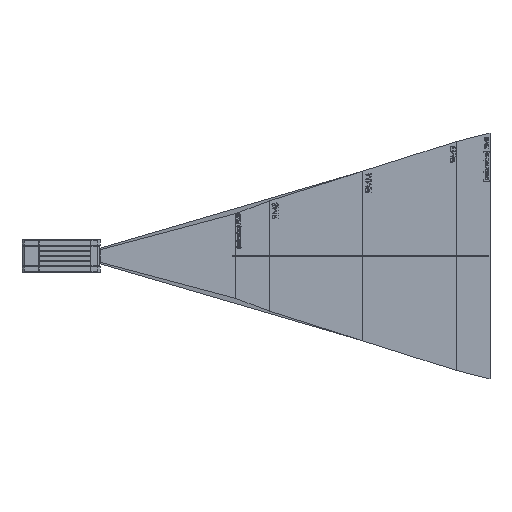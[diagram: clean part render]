
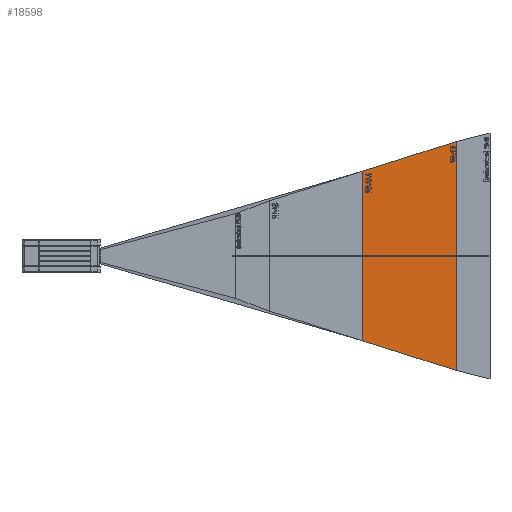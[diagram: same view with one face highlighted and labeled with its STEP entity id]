
A CAD part, left-side view. The second image highlights one B-rep face of the part: STEP entity #18598.
In plain terms, the highlighted planar face has unit normal (-1, 0, 0).
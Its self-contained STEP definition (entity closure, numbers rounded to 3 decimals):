
#6407 = CARTESIAN_POINT ( 'NONE',  ( -43.505, -321., -100. ) ) ;
#7502 = DIRECTION ( 'NONE',  ( -1., 0., 0. ) ) ;
#17875 = EDGE_CURVE ( 'NONE', #115089, #179967, #118974, .T. ) ;
#18047 = CARTESIAN_POINT ( 'NONE',  ( -43.505, -321., -100. ) ) ;
#18598 = ADVANCED_FACE ( 'NONE', ( #139598 ), #141641, .T. ) ;
#21507 = CARTESIAN_POINT ( 'NONE',  ( -43.505, -431., 135. ) ) ;
#27375 = LINE ( 'NONE', #186955, #136110 ) ;
#60114 = DIRECTION ( 'NONE',  ( 0., 0., 1. ) ) ;
#64651 = ORIENTED_EDGE ( 'NONE', *, *, #17875, .T. ) ;
#65510 = VECTOR ( 'NONE', #184694, 1000. ) ;
#73677 = CARTESIAN_POINT ( 'NONE',  ( -43.505, -321., 100. ) ) ;
#87538 = CARTESIAN_POINT ( 'NONE',  ( -43.505, -321., 0. ) ) ;
#101500 = EDGE_LOOP ( 'NONE', ( #118289, #168322, #64651, #159046 ) ) ;
#103976 = VERTEX_POINT ( 'NONE', #21507 ) ;
#114574 = VERTEX_POINT ( 'NONE', #73677 ) ;
#115089 = VERTEX_POINT ( 'NONE', #18047 ) ;
#118289 = ORIENTED_EDGE ( 'NONE', *, *, #170807, .T. ) ;
#118974 = LINE ( 'NONE', #6407, #190831 ) ;
#122335 = LINE ( 'NONE', #87538, #65510 ) ;
#130319 = DIRECTION ( 'NONE',  ( 0., -0.953, -0.303 ) ) ;
#132472 = CARTESIAN_POINT ( 'NONE',  ( -43.505, -321., 100. ) ) ;
#136110 = VECTOR ( 'NONE', #60114, 1000. ) ;
#139598 = FACE_OUTER_BOUND ( 'NONE', #101500, .T. ) ;
#141641 = PLANE ( 'NONE',  #148666 ) ;
#142270 = EDGE_CURVE ( 'NONE', #114574, #115089, #122335, .T. ) ;
#148666 = AXIS2_PLACEMENT_3D ( 'NONE', #185701, #7502, #191745 ) ;
#148722 = DIRECTION ( 'NONE',  ( 0., 0.953, -0.303 ) ) ;
#158474 = CARTESIAN_POINT ( 'NONE',  ( -43.505, -431., -135. ) ) ;
#159046 = ORIENTED_EDGE ( 'NONE', *, *, #172253, .T. ) ;
#168322 = ORIENTED_EDGE ( 'NONE', *, *, #142270, .T. ) ;
#170807 = EDGE_CURVE ( 'NONE', #103976, #114574, #178459, .T. ) ;
#171650 = VECTOR ( 'NONE', #148722, 1000. ) ;
#172253 = EDGE_CURVE ( 'NONE', #179967, #103976, #27375, .T. ) ;
#178459 = LINE ( 'NONE', #132472, #171650 ) ;
#179967 = VERTEX_POINT ( 'NONE', #158474 ) ;
#184694 = DIRECTION ( 'NONE',  ( 0., 0., -1. ) ) ;
#185701 = CARTESIAN_POINT ( 'NONE',  ( -43.505, -11., 0. ) ) ;
#186955 = CARTESIAN_POINT ( 'NONE',  ( -43.505, -431., 0. ) ) ;
#190831 = VECTOR ( 'NONE', #130319, 1000. ) ;
#191745 = DIRECTION ( 'NONE',  ( 0., 0., 1. ) ) ;
